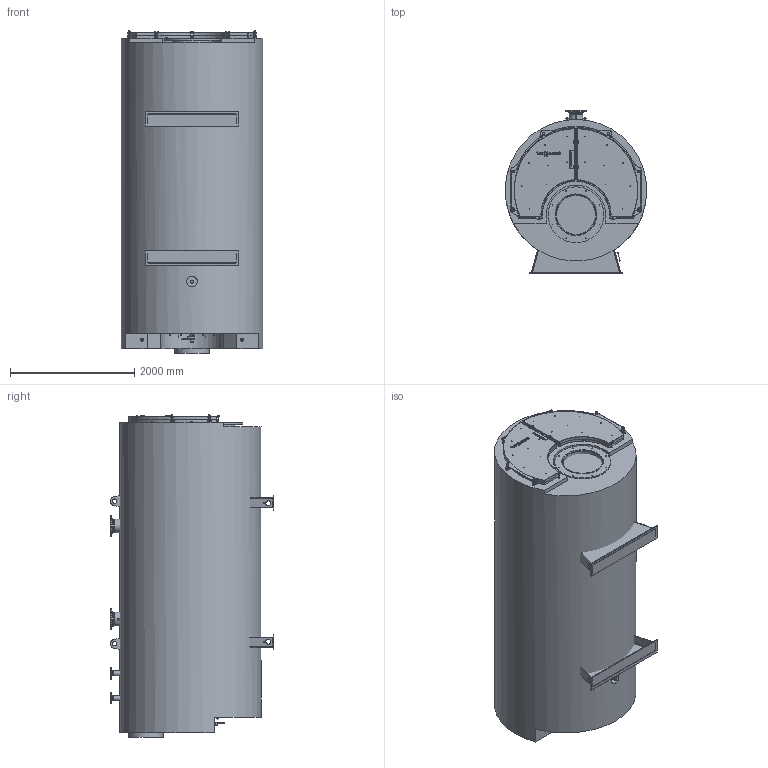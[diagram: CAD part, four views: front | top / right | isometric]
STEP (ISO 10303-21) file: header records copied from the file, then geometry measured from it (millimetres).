
FILE_DESCRIPTION(/* description */ (''),/* implementation_level */ '2;1');
FILE_NAME(/* name */ 'FU0284802_T001.stp',/* time_stamp */ '2017-05-10T13:41:59+02:00',/* author */ (''),/* organization */ (''),/* preprocessor_version */ 'ST-DEVELOPER v16',/* originating_system */ 'SIEMENS PLM Software NX 10.0',/* authorisation */ '');
FILE_SCHEMA (('AUTOMOTIVE_DESIGN { 1 0 10303 214 3 1 1 1 }'));
Length unit declared in the file: millimetre
Products named in the file (111): 9028015_T001; 5520421_T001; 5520412_T001; 5520211_T001; 5661396_T003; 9578654_T001; 5997811_T001; 5997810_T001; 5997808_T001; 5997807_T001; 5661397_T002; 5655433_T001; 9024203_T001; 5655434_T001; 5015776_T001; 5639538_T001; 9017046_T001; 5743753_T001; 5505374_T001; 5893611_T002; 9609969_T002; 6113675_T001; 5152223_T004; 9548563_T001; 5752984_T002; 5995843_T002; 6040734_T001; 5652602_T002; 6041696_T001; 5997805_T001; 5643567_T003; 5643566_T003; 5643565_T003; 5749858_T002; 5996360_T001; 9639650_T001; 5656550_T002; 5997833_T001; 5997817_T001; 5997057_T001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
Assembly tree (255 placements, depth 6):
  FU0284802_T001
    FU0284803_T001
    FU0287175_T001_MODELNX-ARRAGMNTArrangement 1
      7645310_T001_MODEL
        7645311_T001_MODEL
          5651108_T003
          5651107_T002
          5629399_T004
          6043059_T001  x2
          5157685_T004  x2
          5651105_T002  x2
          5651106_T002
          9529527_T001  x8
        7593291_T002_MODEL  x2
          5184434_T003
          9028008_T001
        9607197_T001  x8
        9028035_T002  x8
        9503194_T001
      7354175_T008_MODEL
        7354174_T007_MODEL
          9589709_T001  x3
          7354173_T003_MODEL
            5639538_T001
            5015776_T001  x2
            5655434_T001
            9024203_T001  x3
            5655433_T001
          5656677_T004
          5275142_T005  x3
          5656673_T003
          5456644_T005  x3
          9045119_T001
        9597258_T001  x6
        9500384_T001  x6
        9591781_T001  x6
        5655437_T001
        5655436_T001
        7229828_T008_MODEL
          9542038_T002
          9542040_T001
        9542083_T001
      7584426_T004_MODEL
        7584429_T003_MODEL
          7584431_T002_MODEL
            5661397_T002
            5997807_T001
            5997808_T001
            5997810_T001
            5997811_T001
            9578654_T001  x8
          5997813_T002
          5997814_T001
          5997815_T001
          5997816_T001
          9516963_T001  x8
          9649746_T001
          FU0334890_T001
          5997822_T001
        9067614_T003  x6
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Bounding box: 2280 x 2632 x 5200 mm (x, y, z)
Volume: 20170898535.8 mm3; surface area: 86206248.4 mm2
Topology: 251 solids, 251 shells, 3094 faces, 7169 edges, 4657 vertices
Faces by surface type: plane 1562, cylinder 915, cone 396, bspline 99, torus 75, extrusion 43, sphere 4
Full cylindrical faces by diameter (mm): 1 x42, 2.2 x4, 3.2 x4, 3.3 x4, 4 x6, 4.6 x4, 5 x4, 6.2 x8, 6.5 x4, 6.647 x16, 7.8 x18, 8 x18, 8.376 x8, 10 x8, 10.106 x9, 10.5 x6, 10.77 x8, 10.86 x9, 12 x71, 13 x14, 13.27 x12, 14 x15, 14.63 x8, 15 x13, 15.5 x9, 16 x3, 17.294 x8, 18 x32, 18.63 x2, 20 x14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
Entity records: 47080 total; most frequent: CARTESIAN_POINT 11359, DIRECTION 6509, ORIENTED_EDGE 5772, EDGE_CURVE 2886, AXIS2_PLACEMENT_3D 2589, VERTEX_POINT 2152, EDGE_LOOP 2111, ADVANCED_FACE 1386
